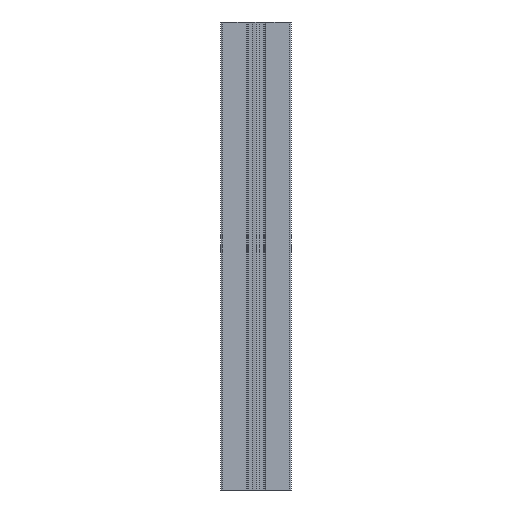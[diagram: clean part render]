
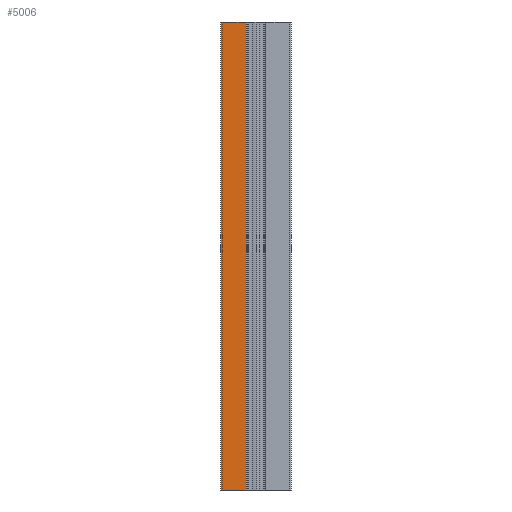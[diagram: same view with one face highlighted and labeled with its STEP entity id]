
A CAD part, left-side view. The second image highlights one B-rep face of the part: STEP entity #5006.
In plain terms, the highlighted planar face has unit normal (-1, 0, 0).
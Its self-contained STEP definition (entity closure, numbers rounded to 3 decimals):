
#43 = CARTESIAN_POINT ( 'NONE',  ( -22.5, 6.2, 300. ) ) ;
#63 = EDGE_LOOP ( 'NONE', ( #4033, #5857, #6474, #7554 ) ) ;
#624 = CARTESIAN_POINT ( 'NONE',  ( -22.5, 6.2, 300. ) ) ;
#867 = PLANE ( 'NONE',  #5208 ) ;
#1043 = CARTESIAN_POINT ( 'NONE',  ( -22.5, 6.2, 300. ) ) ;
#1432 = LINE ( 'NONE', #624, #7034 ) ;
#2649 = DIRECTION ( 'NONE',  ( 0., -1., 0. ) ) ;
#3169 = DIRECTION ( 'NONE',  ( 0., 0., -1. ) ) ;
#3477 = VERTEX_POINT ( 'NONE', #6299 ) ;
#3490 = CARTESIAN_POINT ( 'NONE',  ( -22.5, 6.2, 0. ) ) ;
#4032 = CARTESIAN_POINT ( 'NONE',  ( -22.5, 6.2, 300. ) ) ;
#4033 = ORIENTED_EDGE ( 'NONE', *, *, #7657, .T. ) ;
#4046 = VECTOR ( 'NONE', #5937, 1000. ) ;
#4247 = CARTESIAN_POINT ( 'NONE',  ( -22.5, 6.2, 0. ) ) ;
#4877 = LINE ( 'NONE', #4032, #7799 ) ;
#4993 = VECTOR ( 'NONE', #2649, 1000. ) ;
#5006 = ADVANCED_FACE ( 'NONE', ( #6064 ), #867, .F. ) ;
#5208 = AXIS2_PLACEMENT_3D ( 'NONE', #43, #7332, #6483 ) ;
#5383 = CARTESIAN_POINT ( 'NONE',  ( -22.5, 21.5, 300. ) ) ;
#5857 = ORIENTED_EDGE ( 'NONE', *, *, #7823, .F. ) ;
#5937 = DIRECTION ( 'NONE',  ( 0., 0., -1. ) ) ;
#5981 = EDGE_CURVE ( 'NONE', #7618, #3477, #7612, .T. ) ;
#6064 = FACE_OUTER_BOUND ( 'NONE', #63, .T. ) ;
#6137 = EDGE_CURVE ( 'NONE', #7618, #7658, #1432, .T. ) ;
#6299 = CARTESIAN_POINT ( 'NONE',  ( -22.5, 21.5, 0. ) ) ;
#6394 = VERTEX_POINT ( 'NONE', #4247 ) ;
#6474 = ORIENTED_EDGE ( 'NONE', *, *, #6137, .F. ) ;
#6483 = DIRECTION ( 'NONE',  ( 0., 0., -1. ) ) ;
#6767 = CARTESIAN_POINT ( 'NONE',  ( -22.5, 21.5, 300. ) ) ;
#6855 = LINE ( 'NONE', #3490, #4993 ) ;
#7034 = VECTOR ( 'NONE', #7925, 1000. ) ;
#7332 = DIRECTION ( 'NONE',  ( 1., 0., 0. ) ) ;
#7554 = ORIENTED_EDGE ( 'NONE', *, *, #5981, .T. ) ;
#7612 = LINE ( 'NONE', #6767, #4046 ) ;
#7618 = VERTEX_POINT ( 'NONE', #5383 ) ;
#7657 = EDGE_CURVE ( 'NONE', #3477, #6394, #6855, .T. ) ;
#7658 = VERTEX_POINT ( 'NONE', #1043 ) ;
#7799 = VECTOR ( 'NONE', #3169, 1000. ) ;
#7823 = EDGE_CURVE ( 'NONE', #7658, #6394, #4877, .T. ) ;
#7925 = DIRECTION ( 'NONE',  ( 0., -1., 0. ) ) ;
